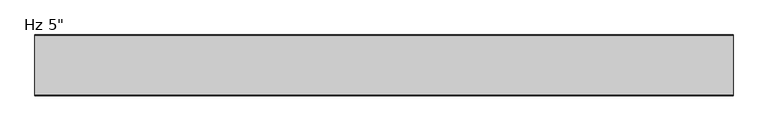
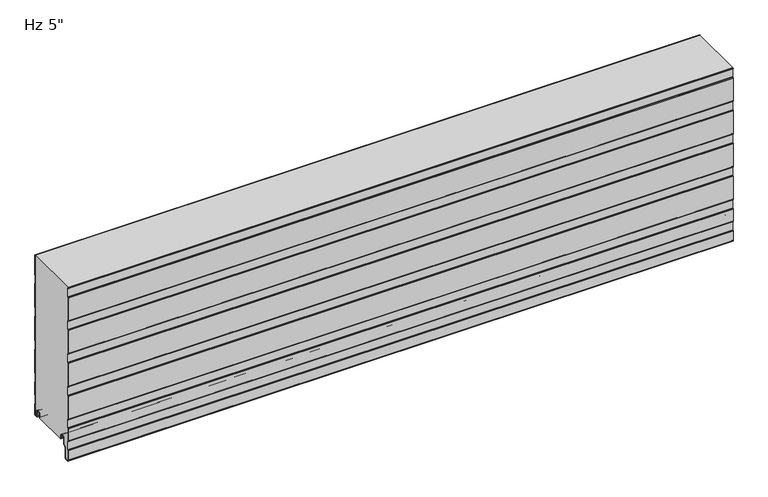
"""IFC4 building model written with IfcOpenShell, lengths in millimetres: plate geometry."""

from ifc_helpers import new_model, si_unit, point, frame, frame_2d, origin, place, context, project, spatial, polyline, circle_curve, trimmed, segment, composite_curve, outline, extrude, source, transform, mapped, element, save
from ifc_brep_helpers import plane_surface, cylinder_surface, revolved_surface, advanced_brep


def plate_ced8370a(model_context):
    return source(origin(), model_context, "Body", "SolidModel", [
        extrude(outline(composite_curve([segment(trimmed(circle_curve(frame_2d((-125.5998717, -10.6415934)), 1.3998661), [point((-126.9997378, -10.6415934))], [point((-126.5324955, -9.5976403))], False, "CARTESIAN"), True, "CONTINUOUS"), segment(polyline([(-126.5324955, -9.5976403), (-125.7997693, -8.8649141), (-125.7997693, 10.0260713), (-126.5327349, 10.7590369)]), True, "CONTINUOUS"), segment(trimmed(circle_curve(frame_2d((-125.6000237, 11.8030877)), 1.3999972), [point((-126.5327349, 10.7590369))], [point((-127.0, 11.810741))], False, "CARTESIAN"), True, "CONTINUOUS"), segment(polyline([(-127.0, 11.810741), (-127.0, 40.1582542)]), True, "CONTINUOUS"), segment(trimmed(circle_curve(frame_2d((-125.6000028, 40.1582542)), 1.3999972), [point((-127.0, 40.1582542))], [point((-126.532714, 41.202305))], False, "CARTESIAN"), True, "CONTINUOUS"), segment(polyline([(-126.532714, 41.202305), (-125.7997693, 41.9352497), (-125.7997693, 60.8259189), (-126.5327349, 61.5588845)]), True, "CONTINUOUS"), segment(trimmed(circle_curve(frame_2d((-125.6000237, 62.6029353)), 1.3999972), [point((-126.5327349, 61.5588845))], [point((-127.0, 62.6105886))], False, "CARTESIAN"), True, "CONTINUOUS"), segment(polyline([(-127.0, 62.6105886), (-127.0, 116.3581018)]), True, "CONTINUOUS"), segment(trimmed(circle_curve(frame_2d((-125.6000028, 116.3581018)), 1.3999972), [point((-127.0, 116.3581018))], [point((-126.532714, 117.4021526))], False, "CARTESIAN"), True, "CONTINUOUS"), segment(polyline([(-126.532714, 117.4021526), (-125.7997693, 118.1350973), (-125.7997693, 137.0257665), (-126.5327349, 137.7587321)]), True, "CONTINUOUS"), segment(trimmed(circle_curve(frame_2d((-125.6000237, 138.8027829)), 1.3999972), [point((-126.5327349, 137.7587321))], [point((-127.0, 138.8104362))], False, "CARTESIAN"), True, "CONTINUOUS"), segment(polyline([(-127.0, 138.8104362), (-127.0, 192.5579494)]), True, "CONTINUOUS"), segment(trimmed(circle_curve(frame_2d((-125.6000028, 192.5579494)), 1.3999972), [point((-127.0, 192.5579494))], [point((-126.532714, 193.6020002))], False, "CARTESIAN"), True, "CONTINUOUS"), segment(polyline([(-126.532714, 193.6020002), (-125.7997693, 194.3349449), (-125.7997693, 213.2256141), (-126.5327349, 213.9585797)]), True, "CONTINUOUS"), segment(trimmed(circle_curve(frame_2d((-125.6000237, 215.0026305)), 1.3999972), [point((-126.5327349, 213.9585797))], [point((-127.0, 215.0102838))], False, "CARTESIAN"), True, "CONTINUOUS"), segment(polyline([(-127.0, 215.0102838), (-127.0, 268.757797)]), True, "CONTINUOUS"), segment(trimmed(circle_curve(frame_2d((-125.6000028, 268.757797)), 1.3999972), [point((-127.0, 268.757797))], [point((-126.532714, 269.8018478))], False, "CARTESIAN"), True, "CONTINUOUS"), segment(polyline([(-126.532714, 269.8018478), (-125.7997693, 270.5347925), (-125.7997693, 289.4254617), (-126.5327349, 290.1584273)]), True, "CONTINUOUS"), segment(trimmed(circle_curve(frame_2d((-125.6000237, 291.2024781)), 1.3999972), [point((-126.5327349, 290.1584273))], [point((-127.0, 291.2101314))], False, "CARTESIAN"), True, "CONTINUOUS"), segment(polyline([(-127.0, 291.2101314), (-127.0, 344.9576446)]), True, "CONTINUOUS"), segment(trimmed(circle_curve(frame_2d((-125.6000028, 344.9576446)), 1.3999972), [point((-127.0, 344.9576446))], [point((-126.532714, 346.0016954))], False, "CARTESIAN"), True, "CONTINUOUS"), segment(polyline([(-126.532714, 346.0016954), (-125.7997693, 346.7346401), (-125.7997693, 365.6253093), (-126.5327349, 366.3582749)]), True, "CONTINUOUS"), segment(trimmed(circle_curve(frame_2d((-125.6000237, 367.4023257)), 1.3999972), [point((-126.5327349, 366.3582749))], [point((-127.0, 367.409979))], False, "CARTESIAN"), True, "CONTINUOUS"), segment(polyline([(-127.0, 367.409979), (-127.0, 368.0), (-126.0, 368.0), (-126.0, 367.240544), (-124.7997693, 366.0403133), (-124.7997693, 346.3209008), (-126.0, 345.1206701), (-126.0, 291.0405383), (-124.7997693, 289.8403076), (-124.7997693, 270.1208951), (-126.0, 268.9206644), (-126.0, 214.8405326), (-124.7997693, 213.6403019), (-124.7997693, 193.9208894), (-126.0, 192.7206587), (-126.0, 138.6405269), (-124.7997693, 137.4402962), (-124.7997693, 117.7208837), (-126.0, 116.520653), (-126.0, 62.4405213), (-124.7997693, 61.2402905), (-124.7997693, 41.520878), (-126.0, 40.3206473), (-126.0, 11.6405156), (-124.7997693, 10.4402849), (-124.7997693, -9.2791277), (-125.9997378, -10.4790962), (-125.9997378, -32.4521176)]), True, "CONTINUOUS"), segment(trimmed(circle_curve(frame_2d((-123.4294985, -32.4521176)), 2.5702393), [point((-125.9997378, -32.4521176))], [point((-123.2054129, -35.0125699))], True, "CARTESIAN"), True, "CONTINUOUS"), segment(polyline([(-123.2054129, -35.0125699), (-118.223592, -34.5765709)]), True, "CONTINUOUS"), segment(trimmed(circle_curve(frame_2d((-118.7049826, -31.9198392)), 2.6999926), [point((-118.223592, -34.5765709))], [point((-116.00499, -31.9198392))], True, "CARTESIAN"), True, "CONTINUOUS"), segment(polyline([(-116.00499, -31.9198392), (-116.00499, -9.8247096), (-110.5029189, -4.3226385)]), True, "CONTINUOUS"), segment(trimmed(circle_curve(frame_2d((-111.7049966, -3.1205608)), 1.6999946), [point((-110.5029189, -4.3226385))], [point((-110.005002, -3.1205608))], True, "CARTESIAN"), True, "CONTINUOUS"), segment(polyline([(-110.005002, -3.1205608), (-110.005002, 8.6903283)]), True, "CONTINUOUS"), segment(trimmed(circle_curve(frame_2d((-106.6550067, 8.6903283)), 3.3499953), [point((-110.005002, 8.6903283))], [point((-106.6550067, 12.0403236))], False, "CARTESIAN"), True, "CONTINUOUS"), segment(polyline([(-106.6550067, 12.0403236), (-102.2550155, 12.0403236)]), True, "CONTINUOUS"), segment(trimmed(circle_curve(frame_2d((-102.2550155, 8.6903283)), 3.3499953), [point((-102.2550155, 12.0403236))], [point((-98.9050202, 8.6903283))], False, "CARTESIAN"), True, "CONTINUOUS"), segment(polyline([(-98.9050202, 8.6903283), (-98.9050202, 5.9912173), (-97.5065413, 5.9912173), (-97.5065413, 2.2328239)]), True, "CONTINUOUS"), segment(trimmed(circle_curve(frame_2d((-98.706538, 2.2313092)), 1.1999976), [point((-97.5065413, 2.2328239))], [point((-98.6760161, 1.0316999))], False, "CARTESIAN"), True, "CONTINUOUS"), segment(trimmed(circle_curve(frame_2d((-98.706538, 2.2313092)), 1.1999976), [point((-98.6760161, 1.0316999))], [point((-99.9050202, 2.1710221))], False, "CARTESIAN"), True, "CONTINUOUS"), segment(polyline([(-99.9050202, 2.1710221), (-99.9050202, 8.6903283)]), True, "CONTINUOUS"), segment(trimmed(circle_curve(frame_2d((-102.2550155, 8.6903283)), 2.3499953), [point((-99.9050202, 8.6903283))], [point((-102.2550155, 11.0403236))], True, "CARTESIAN"), True, "CONTINUOUS"), segment(polyline([(-102.2550155, 11.0403236), (-106.6550067, 11.0403236)]), True, "CONTINUOUS"), segment(trimmed(circle_curve(frame_2d((-106.6550067, 8.6903283)), 2.3499953), [point((-106.6550067, 11.0403236))], [point((-109.005002, 8.6903283))], True, "CARTESIAN"), True, "CONTINUOUS"), segment(polyline([(-109.005002, 8.6903283), (-109.005002, -3.1205608)]), True, "CONTINUOUS"), segment(trimmed(circle_curve(frame_2d((-111.7049966, -3.1205608)), 2.6999946), [point((-109.005002, -3.1205608))], [point((-109.7958121, -5.0297453))], False, "CARTESIAN"), True, "CONTINUOUS"), segment(polyline([(-109.7958121, -5.0297453), (-114.6242296, -9.8581627)]), True, "CONTINUOUS"), segment(trimmed(circle_curve(frame_2d((-113.7049926, -10.7773997)), 1.2999974), [point((-114.6242296, -9.8581627))], [point((-115.00499, -10.7773997))], True, "CARTESIAN"), True, "CONTINUOUS"), segment(polyline([(-115.00499, -10.7773997), (-115.00499, -31.9198392)]), True, "CONTINUOUS"), segment(trimmed(circle_curve(frame_2d((-118.7049826, -31.9198392)), 3.6999926), [point((-115.00499, -31.9198392))], [point((-118.0941815, -35.5690675))], False, "CARTESIAN"), True, "CONTINUOUS"), segment(polyline([(-118.0941815, -35.5690675), (-123.1182281, -36.008762)]), True, "CONTINUOUS"), segment(trimmed(circle_curve(frame_2d((-123.4294985, -32.4521176)), 3.5702393), [point((-123.1182281, -36.008762))], [point((-126.9997378, -32.4521176))], False, "CARTESIAN"), True, "CONTINUOUS"), segment(polyline([(-126.9997378, -32.4521176), (-126.9997378, -10.6415934)]), True, "CONTINUOUS")], self_intersect=False)), frame((-730.0, 0.0, 0.0), z_axis=(1.0, 0.0, 0.0), x_axis=(0.0, 1.0, 0.0)), (0.0, 0.0, 1.0), 1460.0),
        advanced_brep(
        [(-730.0, -17.0015159, 2.0313088), (-730.0, -18.0015191, 1.0313115), (-730.0, -19.0015105, 2.0313088), (-730.0, -19.0015105, 6.0315124), (-730.0, -18.0015159, 6.0315124), (-730.0, -18.0015159, 8.7237222), (-730.0, -14.7015202, 12.0237179), (-730.0, -10.301529, 12.0237179), (-730.0, -7.0015335, 8.7237224), (-730.0, -7.0015335, -1.6962565), (-730.0, -5.2315393, -3.4662507), (-730.0, -0.9999916, -3.4662507), (-730.0, -0.9999916, 21.034026), (-730.0, -2.2002307, 22.4196686), (-730.0, -2.2002307, 41.7948349), (-730.0, -1.0, 43.1804678), (-730.0, -1.0, 71.8338832), (-730.0, -2.2002307, 73.2195162), (-730.0, -2.2002307, 92.5946825), (-730.0, -1.0, 93.9803154), (-730.0, -1.0, 148.0337308), (-730.0, -2.2002307, 149.4193638), (-730.0, -2.2002307, 168.7945301), (-730.0, -1.0, 170.180163), (-730.0, -1.0, 224.2335784), (-730.0, -2.2002307, 225.6192114), (-730.0, -2.2002307, 244.9943777), (-730.0, -1.0, 246.3800106), (-730.0, -1.0, 300.433426), (-730.0, -2.2002307, 301.819059), (-730.0, -2.2002307, 321.1942253), (-730.0, -1.0, 322.5798582), (-730.0, -1.0, 368.0), (-730.0, 0.0, 368.0), (-730.0, 0.0, 322.7290094), (-730.0, -0.3417885, 321.8123925), (-730.0, -1.2002307, 320.8213449), (-730.0, -1.2002307, 302.1919394), (-730.0, -0.3417885, 301.2008918), (-730.0, 0.0, 300.2842749), (-730.0, 0.0, 246.5291618), (-730.0, -0.3417885, 245.6125449), (-730.0, -1.2002307, 244.6214973), (-730.0, -1.2002307, 225.9920918), (-730.0, -0.3417885, 225.0010442), (-730.0, 0.0, 224.0844273), (-730.0, 0.0, 170.3293142), (-730.0, -0.3417885, 169.4126973), (-730.0, -1.2002307, 168.4216497), (-730.0, -1.2002307, 149.7922442), (-730.0, -0.3417885, 148.8011966), (-730.0, 0.0, 147.8845797), (-730.0, 0.0, 94.1294666), (-730.0, -0.3417885, 93.2128497), (-730.0, -1.2002307, 92.2218021), (-730.0, -1.2002307, 73.5923966), (-730.0, -0.3417885, 72.601349), (-730.0, 0.0, 71.6847321), (-730.0, 0.0, 43.329619), (-730.0, -0.3417885, 42.4130021), (-730.0, -1.2002307, 41.4219545), (-730.0, -1.2002307, 22.792549), (-730.0, -0.3417885, 21.8015014), (-730.0, 0.0, 20.8847931), (-730.0, 8.4e-06, -3.0662545), (-730.0, -1.3999878, -4.4662507), (-730.0, -5.2315393, -4.4662507), (-730.0, -8.0015335, -1.6962565), (-730.0, -8.0015335, 8.7237224), (-730.0, -10.301529, 11.0237179), (-730.0, -14.7015202, 11.0237179), (-730.0, -17.0015159, 8.7237222), (730.0, -17.0015159, 2.0313088), (730.0, -17.0015159, 8.7237222), (730.0, -14.7015202, 11.0237179), (730.0, -10.301529, 11.0237179), (730.0, -8.0015335, 8.7237224), (730.0, -8.0015335, -1.6962565), (730.0, -5.2315393, -4.4662507), (730.0, -1.3999878, -4.4662507), (730.0, 8.4e-06, -3.0662545), (730.0, 8.4e-06, 20.8848845), (730.0, -0.3417885, 21.8015014), (730.0, -1.2002307, 22.792549), (730.0, -1.2002307, 41.4219545), (730.0, -0.3417885, 42.4130021), (730.0, 0.0, 43.329619), (730.0, 0.0, 71.6847321), (730.0, -0.3417885, 72.601349), (730.0, -1.2002307, 73.5923966), (730.0, -1.2002307, 92.2218021), (730.0, -0.3417885, 93.2128497), (730.0, 0.0, 94.1294666), (730.0, 0.0, 147.8845797), (730.0, -0.3417885, 148.8011966), (730.0, -1.2002307, 149.7922442), (730.0, -1.2002307, 168.4216497), (730.0, -0.3417885, 169.4126973), (730.0, 0.0, 170.3293142), (730.0, 0.0, 224.0844273), (730.0, -0.3417885, 225.0010442), (730.0, -1.2002307, 225.9920918), (730.0, -1.2002307, 244.6214973), (730.0, -0.3417885, 245.6125449), (730.0, 0.0, 246.5291618), (730.0, 0.0, 300.2842749), (730.0, -0.3417885, 301.2008918), (730.0, -1.2002307, 302.1919394), (730.0, -1.2002307, 320.8213449), (730.0, -0.3417885, 321.8123925), (730.0, 0.0, 322.7290094), (730.0, 0.0, 368.0), (730.0, -1.0, 368.0), (730.0, -1.0, 322.5798582), (730.0, -2.2002307, 321.1942253), (730.0, -2.2002307, 301.819059), (730.0, -1.0, 300.433426), (730.0, -1.0, 246.3800106), (730.0, -2.2002307, 244.9943777), (730.0, -2.2002307, 225.6192114), (730.0, -1.0, 224.2335784), (730.0, -1.0, 170.180163), (730.0, -2.2002307, 168.7945301), (730.0, -2.2002307, 149.4193638), (730.0, -1.0, 148.0337308), (730.0, -1.0, 93.9803154), (730.0, -2.2002307, 92.5946825), (730.0, -2.2002307, 73.2195162), (730.0, -1.0, 71.8338832), (730.0, -1.0, 43.1804678), (730.0, -2.2002307, 41.7948349), (730.0, -2.2002307, 22.4196686), (730.0, -0.9999916, 21.034026), (730.0, -0.9999916, -3.4662507), (730.0, -5.2315393, -3.4662507), (730.0, -7.0015335, -1.6962565), (730.0, -7.0015335, 8.7237224), (730.0, -10.301529, 12.0237179), (730.0, -14.7015202, 12.0237179), (730.0, -18.0015159, 8.7237222), (730.0, -18.0015159, 6.0315124), (730.0, -19.0015105, 6.0315124), (730.0, -19.0015105, 2.0313088), (730.0, -18.0015192, 1.0313116)],
        [
            (0, 1, circle_curve(frame((-730.0, -18.0015132, 2.0313088), z_axis=(-1.0, 0.0, 0.0), x_axis=(0.0, 0.0, 1.0)), 0.9999973)),
            (1, 2, circle_curve(frame((-730.0, -18.0015133, 2.0313088), z_axis=(-1.0, 0.0, 0.0), x_axis=(0.0, 0.0, 1.0)), 0.9999972)),
            (2, 3),
            (3, 4),
            (4, 5),
            (5, 6, circle_curve(frame((-730.0, -14.7015202, 8.7237222), z_axis=(-1.0, 0.0, 0.0), x_axis=(0.0, 0.0, 1.0)), 3.2999957)),
            (6, 7),
            (7, 8, circle_curve(frame((-730.0, -10.301529, 8.7237224), z_axis=(-1.0, 0.0, 0.0), x_axis=(0.0, 0.0, 1.0)), 3.2999955)),
            (8, 9),
            (9, 10, circle_curve(frame((-730.0, -5.2315393, -1.6962565), z_axis=(1.0, 0.0, 0.0), x_axis=(0.0, 0.0, 1.0)), 1.7699942)),
            (10, 11),
            (11, 12),
            (12, 13),
            (13, 14),
            (14, 15),
            (15, 16),
            (16, 17),
            (17, 18),
            (18, 19),
            (19, 20),
            (20, 21),
            (21, 22),
            (22, 23),
            (23, 24),
            (24, 25),
            (25, 26),
            (26, 27),
            (27, 28),
            (28, 29),
            (29, 30),
            (30, 31),
            (31, 32),
            (32, 33),
            (33, 34),
            (34, 35, circle_curve(frame((-730.0, -1.3999972, 322.7290094), z_axis=(-1.0, 0.0, 0.0), x_axis=(0.0, 0.0, 1.0)), 1.3999972)),
            (35, 36),
            (36, 37),
            (37, 38),
            (38, 39, circle_curve(frame((-730.0, -1.3999972, 300.2842749), z_axis=(-1.0, 0.0, 0.0), x_axis=(0.0, 0.0, 1.0)), 1.3999972)),
            (39, 40),
            (40, 41, circle_curve(frame((-730.0, -1.3999972, 246.5291618), z_axis=(-1.0, 0.0, 0.0), x_axis=(0.0, 0.0, 1.0)), 1.3999972)),
            (41, 42),
            (42, 43),
            (43, 44),
            (44, 45, circle_curve(frame((-730.0, -1.3999972, 224.0844273), z_axis=(-1.0, 0.0, 0.0), x_axis=(0.0, 0.0, 1.0)), 1.3999972)),
            (45, 46),
            (46, 47, circle_curve(frame((-730.0, -1.3999972, 170.3293142), z_axis=(-1.0, 0.0, 0.0), x_axis=(0.0, 0.0, 1.0)), 1.3999972)),
            (47, 48),
            (48, 49),
            (49, 50),
            (50, 51, circle_curve(frame((-730.0, -1.3999972, 147.8845797), z_axis=(-1.0, 0.0, 0.0), x_axis=(0.0, 0.0, 1.0)), 1.3999972)),
            (51, 52),
            (52, 53, circle_curve(frame((-730.0, -1.3999972, 94.1294666), z_axis=(-1.0, 0.0, 0.0), x_axis=(0.0, 0.0, 1.0)), 1.3999972)),
            (53, 54),
            (54, 55),
            (55, 56),
            (56, 57, circle_curve(frame((-730.0, -1.3999972, 71.6847321), z_axis=(-1.0, 0.0, 0.0), x_axis=(0.0, 0.0, 1.0)), 1.3999972)),
            (57, 58),
            (58, 59, circle_curve(frame((-730.0, -1.3999972, 43.329619), z_axis=(-1.0, 0.0, 0.0), x_axis=(0.0, 0.0, 1.0)), 1.3999972)),
            (59, 60),
            (60, 61),
            (61, 62),
            (62, 63, circle_curve(frame((-730.0, -1.3999972, 20.8848845), z_axis=(-1.0, 0.0, 0.0), x_axis=(0.0, 0.0, 1.0)), 1.3999972)),
            (63, 64),
            (64, 65, circle_curve(frame((-730.0, -1.3999878, -3.0662545), z_axis=(-1.0, 0.0, 0.0), x_axis=(0.0, 0.0, 1.0)), 1.3999962)),
            (65, 66),
            (66, 67, circle_curve(frame((-730.0, -5.2315393, -1.6962565), z_axis=(-1.0, 0.0, 0.0), x_axis=(0.0, 0.0, 1.0)), 2.7699942)),
            (67, 68),
            (68, 69, circle_curve(frame((-730.0, -10.301529, 8.7237224), z_axis=(1.0, 0.0, 0.0), x_axis=(0.0, 0.0, 1.0)), 2.2999955)),
            (69, 70),
            (70, 71, circle_curve(frame((-730.0, -14.7015202, 8.7237222), z_axis=(1.0, 0.0, 0.0), x_axis=(0.0, 0.0, 1.0)), 2.2999957)),
            (71, 0),
            (72, 73),
            (73, 74, circle_curve(frame((730.0, -14.7015202, 8.7237222), z_axis=(-1.0, 0.0, 0.0), x_axis=(0.0, 0.0, 1.0)), 2.2999957)),
            (74, 75),
            (75, 76, circle_curve(frame((730.0, -10.301529, 8.7237224), z_axis=(-1.0, 0.0, 0.0), x_axis=(0.0, 0.0, 1.0)), 2.2999955)),
            (76, 77),
            (77, 78, circle_curve(frame((730.0, -5.2315393, -1.6962565), z_axis=(1.0, 0.0, 0.0), x_axis=(0.0, 0.0, 1.0)), 2.7699942)),
            (78, 79),
            (79, 80, circle_curve(frame((730.0, -1.3999878, -3.0662545), z_axis=(1.0, 0.0, 0.0), x_axis=(0.0, 0.0, 1.0)), 1.3999962)),
            (80, 81),
            (81, 82, circle_curve(frame((730.0, -1.3999972, 20.8848845), z_axis=(1.0, 0.0, 0.0), x_axis=(0.0, 0.0, 1.0)), 1.3999972)),
            (82, 83),
            (83, 84),
            (84, 85),
            (85, 86, circle_curve(frame((730.0, -1.3999972, 43.329619), z_axis=(1.0, 0.0, 0.0), x_axis=(0.0, 0.0, 1.0)), 1.3999972)),
            (86, 87),
            (87, 88, circle_curve(frame((730.0, -1.3999972, 71.6847321), z_axis=(1.0, 0.0, 0.0), x_axis=(0.0, 0.0, 1.0)), 1.3999972)),
            (88, 89),
            (89, 90),
            (90, 91),
            (91, 92, circle_curve(frame((730.0, -1.3999972, 94.1294666), z_axis=(1.0, 0.0, 0.0), x_axis=(0.0, 0.0, 1.0)), 1.3999972)),
            (92, 93),
            (93, 94, circle_curve(frame((730.0, -1.3999972, 147.8845797), z_axis=(1.0, 0.0, 0.0), x_axis=(0.0, 0.0, 1.0)), 1.3999972)),
            (94, 95),
            (95, 96),
            (96, 97),
            (97, 98, circle_curve(frame((730.0, -1.3999972, 170.3293142), z_axis=(1.0, 0.0, 0.0), x_axis=(0.0, 0.0, 1.0)), 1.3999972)),
            (98, 99),
            (99, 100, circle_curve(frame((730.0, -1.3999972, 224.0844273), z_axis=(1.0, 0.0, 0.0), x_axis=(0.0, 0.0, 1.0)), 1.3999972)),
            (100, 101),
            (101, 102),
            (102, 103),
            (103, 104, circle_curve(frame((730.0, -1.3999972, 246.5291618), z_axis=(1.0, 0.0, 0.0), x_axis=(0.0, 0.0, 1.0)), 1.3999972)),
            (104, 105),
            (105, 106, circle_curve(frame((730.0, -1.3999972, 300.2842749), z_axis=(1.0, 0.0, 0.0), x_axis=(0.0, 0.0, 1.0)), 1.3999972)),
            (106, 107),
            (107, 108),
            (108, 109),
            (109, 110, circle_curve(frame((730.0, -1.3999972, 322.7290094), z_axis=(1.0, 0.0, 0.0), x_axis=(0.0, 0.0, 1.0)), 1.3999972)),
            (110, 111),
            (111, 112),
            (112, 113),
            (113, 114),
            (114, 115),
            (115, 116),
            (116, 117),
            (117, 118),
            (118, 119),
            (119, 120),
            (120, 121),
            (121, 122),
            (122, 123),
            (123, 124),
            (124, 125),
            (125, 126),
            (126, 127),
            (127, 128),
            (128, 129),
            (129, 130),
            (130, 131),
            (131, 132),
            (132, 133),
            (133, 134),
            (134, 135, circle_curve(frame((730.0, -5.2315393, -1.6962565), z_axis=(-1.0, 0.0, 0.0), x_axis=(0.0, 0.0, 1.0)), 1.7699942)),
            (135, 136),
            (136, 137, circle_curve(frame((730.0, -10.301529, 8.7237224), z_axis=(1.0, 0.0, 0.0), x_axis=(0.0, 0.0, 1.0)), 3.2999955)),
            (137, 138),
            (138, 139, circle_curve(frame((730.0, -14.7015202, 8.7237222), z_axis=(1.0, 0.0, 0.0), x_axis=(0.0, 0.0, 1.0)), 3.2999957)),
            (139, 140),
            (140, 141),
            (141, 142),
            (142, 143, circle_curve(frame((730.0, -18.0015133, 2.0313088), z_axis=(1.0, 0.0, 0.0), x_axis=(0.0, 0.0, 1.0)), 0.9999972)),
            (143, 72, circle_curve(frame((730.0, -18.0015132, 2.0313088), z_axis=(1.0, 0.0, 0.0), x_axis=(0.0, 0.0, 1.0)), 0.9999973)),
            (32, 112),
            (111, 33),
            (67, 77),
            (76, 68),
            (0, 72),
            (143, 1),
            (71, 73),
            (70, 74),
            (75, 69),
            (65, 79),
            (78, 66),
            (64, 80),
            (63, 81),
            (2, 142),
            (141, 3),
            (56, 88),
            (87, 57),
            (61, 83),
            (82, 62),
            (60, 84),
            (58, 86),
            (85, 59),
            (50, 94),
            (93, 51),
            (54, 90),
            (89, 55),
            (52, 92),
            (91, 53),
            (44, 100),
            (99, 45),
            (48, 96),
            (95, 49),
            (46, 98),
            (97, 47),
            (38, 106),
            (105, 39),
            (42, 102),
            (101, 43),
            (40, 104),
            (103, 41),
            (36, 108),
            (107, 37),
            (34, 110),
            (109, 35),
            (27, 117),
            (116, 28),
            (115, 29),
            (114, 30),
            (113, 31),
            (26, 118),
            (25, 119),
            (24, 120),
            (23, 121),
            (22, 122),
            (21, 123),
            (20, 124),
            (19, 125),
            (18, 126),
            (17, 127),
            (16, 128),
            (15, 129),
            (14, 130),
            (140, 4),
            (139, 5),
            (138, 6),
            (137, 7),
            (136, 8),
            (135, 9),
            (12, 132),
            (131, 13),
            (11, 133),
            (10, 134),
        ],
        [
            plane_surface(frame((-730.0, 0.0, 508.0), z_axis=(-1.0, 0.0, 0.0), x_axis=(0.0, 1.0, 0.0))),
            plane_surface(frame((730.0, 0.0, 508.0), z_axis=(1.0, 0.0, 0.0), x_axis=(0.0, 1.0, 0.0))),
            plane_surface(frame((730.0, 10.0, 368.0), z_axis=(0.0, 0.0, 1.0), x_axis=(-1.0, 0.0, 0.0))),
            plane_surface(frame((-730.0, -8.0015335, 8.7237224), z_axis=(0.0, -1.0, 0.0), x_axis=(1.0, 0.0, 0.0))),
            cylinder_surface(frame((-730.0, -18.0015132, 2.0313088), z_axis=(-1.0, 0.0, 0.0), x_axis=(0.0, 0.0, 1.0)), 0.9999973),
            plane_surface(frame((-730.0, -17.0015159, 2.0313088), z_axis=(0.0, 1.0, 0.0), x_axis=(1.0, 0.0, 0.0))),
            revolved_surface(polyline([(730.0, -14.7015202, 11.0237179), (-730.0, -14.7015202, 11.0237179)]), (-730.0, -14.7015202, 8.7237222), (1.0, 0.0, 0.0)),
            revolved_surface(polyline([(730.0, -10.301529, 11.0237179), (-730.0, -10.301529, 11.0237179)]), (-730.0, -10.301529, 8.7237224), (1.0, 0.0, 0.0)),
            plane_surface(frame((-730.0, -14.7015202, 11.0237179), z_axis=(0.0, 0.0, -1.0), x_axis=(1.0, 0.0, 0.0))),
            plane_surface(frame((-730.0, -5.2315393, -4.4662507), z_axis=(0.0, 0.0, -1.0), x_axis=(1.0, 0.0, 0.0))),
            cylinder_surface(frame((-730.0, -1.3999878, -3.0662545), z_axis=(-1.0, 0.0, 0.0), x_axis=(0.0, 0.0, 1.0)), 1.3999962),
            cylinder_surface(frame((-730.0, -5.2315393, -1.6962565), z_axis=(-1.0, 0.0, 0.0), x_axis=(0.0, 0.0, 1.0)), 2.7699942),
            plane_surface(frame((-730.0, 8.4e-06, -3.0662545), z_axis=(0.0, 1.0, 0.0), x_axis=(1.0, 0.0, 0.0))),
            plane_surface(frame((-730.0, -19.0015105, 6.0315124), z_axis=(0.0, -1.0, 0.0), x_axis=(1.0, 0.0, 0.0))),
            cylinder_surface(frame((-730.0, -18.0015133, 2.0313088), z_axis=(-1.0, 0.0, 0.0), x_axis=(0.0, 0.0, 1.0)), 0.9999972),
            cylinder_surface(frame((-730.0, -1.3999972, 71.6847321), z_axis=(-1.0, 0.0, 0.0), x_axis=(0.0, 0.0, 1.0)), 1.3999972),
            plane_surface(frame((-730.0, -0.3417885, 21.8015014), z_axis=(0.0, 0.755864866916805, 0.6547276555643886), x_axis=(1.0, 0.0, 0.0))),
            plane_surface(frame((-730.0, -1.2002307, 32.1072517), z_axis=(0.0, 1.0, 0.0), x_axis=(1.0, 0.0, 0.0))),
            cylinder_surface(frame((-730.0, -1.3999972, 20.8848845), z_axis=(-1.0, 0.0, 0.0), x_axis=(0.0, 0.0, 1.0)), 1.3999972),
            cylinder_surface(frame((-730.0, -1.3999972, 43.329619), z_axis=(-1.0, 0.0, 0.0), x_axis=(0.0, 0.0, 1.0)), 1.3999972),
            plane_surface(frame((-730.0, -1.2002307, 41.4219545), z_axis=(0.0, 0.755864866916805, -0.6547276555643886), x_axis=(1.0, 0.0, 0.0))),
            cylinder_surface(frame((-730.0, -1.3999972, 147.8845797), z_axis=(-1.0, 0.0, 0.0), x_axis=(0.0, 0.0, 1.0)), 1.3999972),
            plane_surface(frame((-730.0, -1.2002307, 82.9070993), z_axis=(0.0, 1.0, 0.0), x_axis=(1.0, 0.0, 0.0))),
            cylinder_surface(frame((-730.0, -1.3999972, 94.1294666), z_axis=(-1.0, 0.0, 0.0), x_axis=(0.0, 0.0, 1.0)), 1.3999972),
            plane_surface(frame((-730.0, -0.3417885, 72.601349), z_axis=(0.0, 0.755864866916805, 0.6547276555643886), x_axis=(1.0, 0.0, 0.0))),
            plane_surface(frame((-730.0, -1.2002307, 92.2218021), z_axis=(0.0, 0.755864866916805, -0.6547276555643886), x_axis=(1.0, 0.0, 0.0))),
            plane_surface(frame((-730.0, 0.0, 43.329619), z_axis=(0.0, 1.0, 0.0), x_axis=(1.0, 0.0, 0.0))),
            cylinder_surface(frame((-730.0, -1.3999972, 224.0844273), z_axis=(-1.0, 0.0, 0.0), x_axis=(0.0, 0.0, 1.0)), 1.3999972),
            plane_surface(frame((-730.0, -1.2002307, 159.1069469), z_axis=(0.0, 1.0, 0.0), x_axis=(1.0, 0.0, 0.0))),
            cylinder_surface(frame((-730.0, -1.3999972, 170.3293142), z_axis=(-1.0, 0.0, 0.0), x_axis=(0.0, 0.0, 1.0)), 1.3999972),
            plane_surface(frame((-730.0, -0.3417885, 148.8011966), z_axis=(0.0, 0.755864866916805, 0.6547276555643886), x_axis=(1.0, 0.0, 0.0))),
            plane_surface(frame((-730.0, -1.2002307, 168.4216497), z_axis=(0.0, 0.755864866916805, -0.6547276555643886), x_axis=(1.0, 0.0, 0.0))),
            plane_surface(frame((-730.0, 0.0, 94.1294666), z_axis=(0.0, 1.0, 0.0), x_axis=(1.0, 0.0, 0.0))),
            cylinder_surface(frame((-730.0, -1.3999972, 300.2842749), z_axis=(-1.0, 0.0, 0.0), x_axis=(0.0, 0.0, 1.0)), 1.3999972),
            plane_surface(frame((-730.0, -1.2002307, 235.3067945), z_axis=(0.0, 1.0, 0.0), x_axis=(1.0, 0.0, 0.0))),
            cylinder_surface(frame((-730.0, -1.3999972, 246.5291618), z_axis=(-1.0, 0.0, 0.0), x_axis=(0.0, 0.0, 1.0)), 1.3999972),
            plane_surface(frame((-730.0, -0.3417885, 225.0010442), z_axis=(0.0, 0.755864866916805, 0.6547276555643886), x_axis=(1.0, 0.0, 0.0))),
            plane_surface(frame((-730.0, -1.2002307, 244.6214973), z_axis=(0.0, 0.755864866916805, -0.6547276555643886), x_axis=(1.0, 0.0, 0.0))),
            plane_surface(frame((-730.0, 0.0, 170.3293142), z_axis=(0.0, 1.0, 0.0), x_axis=(1.0, 0.0, 0.0))),
            plane_surface(frame((-730.0, -1.2002307, 311.5066421), z_axis=(0.0, 1.0, 0.0), x_axis=(1.0, 0.0, 0.0))),
            cylinder_surface(frame((-730.0, -1.3999972, 322.7290094), z_axis=(-1.0, 0.0, 0.0), x_axis=(0.0, 0.0, 1.0)), 1.3999972),
            plane_surface(frame((-730.0, -0.3417885, 301.2008918), z_axis=(0.0, 0.755864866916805, 0.6547276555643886), x_axis=(1.0, 0.0, 0.0))),
            plane_surface(frame((-730.0, -1.2002307, 320.8213449), z_axis=(0.0, 0.755864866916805, -0.6547276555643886), x_axis=(1.0, 0.0, 0.0))),
            plane_surface(frame((-730.0, 0.0, 246.5291618), z_axis=(0.0, 1.0, 0.0), x_axis=(1.0, 0.0, 0.0))),
            plane_surface(frame((-730.0, 0.0, 322.7290094), z_axis=(0.0, 1.0, 0.0), x_axis=(1.0, 0.0, 0.0))),
            plane_surface(frame((-730.0, -1.0, 300.433426), z_axis=(0.0, -1.0, 0.0), x_axis=(1.0, 0.0, 0.0))),
            plane_surface(frame((-730.0, -2.2002307, 301.819059), z_axis=(0.0, -0.755864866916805, -0.6547276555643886), x_axis=(1.0, 0.0, 0.0))),
            plane_surface(frame((-730.0, -2.2002307, 321.1942253), z_axis=(0.0, -1.0, 0.0), x_axis=(1.0, 0.0, 0.0))),
            plane_surface(frame((-730.0, -1.0, 322.5798582), z_axis=(0.0, -0.755864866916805, 0.6547276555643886), x_axis=(1.0, 0.0, 0.0))),
            plane_surface(frame((-730.0, -1.0, 376.6332736), z_axis=(0.0, -1.0, 0.0), x_axis=(1.0, 0.0, 0.0))),
            plane_surface(frame((-730.0, -1.0, 246.3800106), z_axis=(0.0, -0.755864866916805, 0.6547276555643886), x_axis=(1.0, 0.0, 0.0))),
            plane_surface(frame((-730.0, -2.2002307, 244.9943777), z_axis=(0.0, -1.0, 0.0), x_axis=(1.0, 0.0, 0.0))),
            plane_surface(frame((-730.0, -2.2002307, 225.6192114), z_axis=(0.0, -0.755864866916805, -0.6547276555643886), x_axis=(1.0, 0.0, 0.0))),
            plane_surface(frame((-730.0, -1.0, 224.2335784), z_axis=(0.0, -1.0, 0.0), x_axis=(1.0, 0.0, 0.0))),
            plane_surface(frame((-730.0, -1.0, 170.180163), z_axis=(0.0, -0.755864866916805, 0.6547276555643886), x_axis=(1.0, 0.0, 0.0))),
            plane_surface(frame((-730.0, -2.2002307, 168.7945301), z_axis=(0.0, -1.0, 0.0), x_axis=(1.0, 0.0, 0.0))),
            plane_surface(frame((-730.0, -2.2002307, 149.4193638), z_axis=(0.0, -0.755864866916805, -0.6547276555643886), x_axis=(1.0, 0.0, 0.0))),
            plane_surface(frame((-730.0, -1.0, 148.0337308), z_axis=(0.0, -1.0, 0.0), x_axis=(1.0, 0.0, 0.0))),
            plane_surface(frame((-730.0, -1.0, 93.9803154), z_axis=(0.0, -0.755864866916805, 0.6547276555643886), x_axis=(1.0, 0.0, 0.0))),
            plane_surface(frame((-730.0, -2.2002307, 92.5946825), z_axis=(0.0, -1.0, 0.0), x_axis=(1.0, 0.0, 0.0))),
            plane_surface(frame((-730.0, -2.2002307, 73.2195162), z_axis=(0.0, -0.755864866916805, -0.6547276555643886), x_axis=(1.0, 0.0, 0.0))),
            plane_surface(frame((-730.0, -1.0, 71.8338832), z_axis=(0.0, -1.0, 0.0), x_axis=(1.0, 0.0, 0.0))),
            plane_surface(frame((-730.0, -1.0, 43.1804678), z_axis=(0.0, -0.755864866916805, 0.6547276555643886), x_axis=(1.0, 0.0, 0.0))),
            plane_surface(frame((-730.0, -18.0015159, 6.0315124), z_axis=(0.0, 0.0, 1.0), x_axis=(1.0, 0.0, 0.0))),
            plane_surface(frame((-730.0, -18.0015159, 8.7237222), z_axis=(0.0, -1.0, 0.0), x_axis=(1.0, 0.0, 0.0))),
            cylinder_surface(frame((-730.0, -14.7015202, 8.7237222), z_axis=(-1.0, 0.0, 0.0), x_axis=(0.0, 0.0, 1.0)), 3.2999957),
            plane_surface(frame((-730.0, -10.301529, 12.0237179), z_axis=(0.0, 0.0, 1.0), x_axis=(1.0, 0.0, 0.0))),
            cylinder_surface(frame((-730.0, -10.301529, 8.7237224), z_axis=(-1.0, 0.0, 0.0), x_axis=(0.0, 0.0, 1.0)), 3.2999955),
            plane_surface(frame((-730.0, -7.0015335, -1.6962565), z_axis=(0.0, 1.0, 0.0), x_axis=(1.0, 0.0, 0.0))),
            plane_surface(frame((-730.0, -2.2002307, 22.4196686), z_axis=(0.0, -0.755864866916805, -0.6547276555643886), x_axis=(1.0, 0.0, 0.0))),
            plane_surface(frame((-730.0, -2.2002307, 41.7948349), z_axis=(0.0, -1.0, 0.0), x_axis=(1.0, 0.0, 0.0))),
            plane_surface(frame((-730.0, -0.9999916, 21.034026), z_axis=(0.0, -1.0, 0.0), x_axis=(1.0, 0.0, 0.0))),
            plane_surface(frame((-730.0, -0.9999916, -3.4662507), z_axis=(0.0, 0.0, 1.0), x_axis=(1.0, 0.0, 0.0))),
            revolved_surface(polyline([(730.0, -5.2315393, 0.0737376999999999), (-730.0, -5.2315393, 0.0737376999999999)]), (-730.0, -5.2315393, -1.6962565), (1.0, 0.0, 0.0)),
        ],
        [
            (0, [[1, 2, 3, 4, 5, 6, 7, 8, 9, 10, 11, 12, 13, 14, 15, 16, 17, 18, 19, 20, 21, 22, 23, 24, 25, 26, 27, 28, 29, 30, 31, 32, 33, 34, 35, 36, 37, 38, 39, 40, 41, 42, 43, 44, 45, 46, 47, 48, 49, 50, 51, 52, 53, 54, 55, 56, 57, 58, 59, 60, 61, 62, 63, 64, 65, 66, 67, 68, 69, 70, 71, 72]]),
            (1, [[73, 74, 75, 76, 77, 78, 79, 80, 81, 82, 83, 84, 85, 86, 87, 88, 89, 90, 91, 92, 93, 94, 95, 96, 97, 98, 99, 100, 101, 102, 103, 104, 105, 106, 107, 108, 109, 110, 111, 112, 113, 114, 115, 116, 117, 118, 119, 120, 121, 122, 123, 124, 125, 126, 127, 128, 129, 130, 131, 132, 133, 134, 135, 136, 137, 138, 139, 140, 141, 142, 143, 144]]),
            (2, [[145, -112, 146, -33]]),
            (3, [[147, -77, 148, -68]]),
            (4, [[149, -144, 150, -1]]),
            (5, [[151, -73, -149, -72]]),
            (6, [[152, -74, -151, -71]]),
            (7, [[-148, -76, 153, -69]]),
            (8, [[-153, -75, -152, -70]]),
            (9, [[154, -79, 155, -66]]),
            (10, [[156, -80, -154, -65]]),
            (11, [[-155, -78, -147, -67]]),
            (12, [[157, -81, -156, -64]]),
            (13, [[158, -142, 159, -3]]),
            (14, [[-150, -143, -158, -2]]),
            (15, [[160, -88, 161, -57]]),
            (16, [[162, -83, 163, -62]]),
            (17, [[164, -84, -162, -61]]),
            (18, [[-163, -82, -157, -63]]),
            (19, [[165, -86, 166, -59]]),
            (20, [[-166, -85, -164, -60]]),
            (21, [[167, -94, 168, -51]]),
            (22, [[169, -90, 170, -55]]),
            (23, [[171, -92, 172, -53]]),
            (24, [[-170, -89, -160, -56]]),
            (25, [[-172, -91, -169, -54]]),
            (26, [[-161, -87, -165, -58]]),
            (27, [[173, -100, 174, -45]]),
            (28, [[175, -96, 176, -49]]),
            (29, [[177, -98, 178, -47]]),
            (30, [[-176, -95, -167, -50]]),
            (31, [[-178, -97, -175, -48]]),
            (32, [[-168, -93, -171, -52]]),
            (33, [[179, -106, 180, -39]]),
            (34, [[181, -102, 182, -43]]),
            (35, [[183, -104, 184, -41]]),
            (36, [[-182, -101, -173, -44]]),
            (37, [[-184, -103, -181, -42]]),
            (38, [[-174, -99, -177, -46]]),
            (39, [[185, -108, 186, -37]]),
            (40, [[187, -110, 188, -35]]),
            (41, [[-186, -107, -179, -38]]),
            (42, [[-188, -109, -185, -36]]),
            (43, [[-180, -105, -183, -40]]),
            (44, [[-34, -146, -111, -187]]),
            (45, [[189, -117, 190, -28]]),
            (46, [[-190, -116, 191, -29]]),
            (47, [[-191, -115, 192, -30]]),
            (48, [[-192, -114, 193, -31]]),
            (49, [[-113, -145, -32, -193]]),
            (50, [[194, -118, -189, -27]]),
            (51, [[195, -119, -194, -26]]),
            (52, [[196, -120, -195, -25]]),
            (53, [[197, -121, -196, -24]]),
            (54, [[198, -122, -197, -23]]),
            (55, [[199, -123, -198, -22]]),
            (56, [[200, -124, -199, -21]]),
            (57, [[201, -125, -200, -20]]),
            (58, [[202, -126, -201, -19]]),
            (59, [[203, -127, -202, -18]]),
            (60, [[204, -128, -203, -17]]),
            (61, [[205, -129, -204, -16]]),
            (62, [[206, -130, -205, -15]]),
            (63, [[-159, -141, 207, -4]]),
            (64, [[-207, -140, 208, -5]]),
            (65, [[-208, -139, 209, -6]]),
            (66, [[-209, -138, 210, -7]]),
            (67, [[-210, -137, 211, -8]]),
            (68, [[-211, -136, 212, -9]]),
            (69, [[213, -132, 214, -13]]),
            (70, [[-214, -131, -206, -14]]),
            (71, [[215, -133, -213, -12]]),
            (72, [[216, -134, -215, -11]]),
            (73, [[-212, -135, -216, -10]]),
        ],
    ),
        extrude(outline(composite_curve([segment(trimmed(circle_curve(frame_2d((-98.706538, 2.2313092)), 1.1999976), [point((-98.6760161, 1.0316999))], [point((-97.5065413, 2.2328239))], True, "CARTESIAN"), True, "CONTINUOUS"), segment(polyline([(-97.5065413, 2.2328239), (-97.5065413, 5.9912173), (-98.9050202, 5.9912173), (-98.9050202, 8.6903283)]), True, "CONTINUOUS"), segment(trimmed(circle_curve(frame_2d((-102.2550155, 8.6903283)), 3.3499953), [point((-98.9050202, 8.6903283))], [point((-102.2550155, 12.0403236))], True, "CARTESIAN"), True, "CONTINUOUS"), segment(polyline([(-102.2550155, 12.0403236), (-106.6550067, 12.0403236)]), True, "CONTINUOUS"), segment(trimmed(circle_curve(frame_2d((-106.6550067, 8.6903283)), 3.3499953), [point((-106.6550067, 12.0403236))], [point((-110.005002, 8.6903283))], True, "CARTESIAN"), True, "CONTINUOUS"), segment(polyline([(-110.005002, 8.6903283), (-110.005002, -3.1205608)]), True, "CONTINUOUS"), segment(trimmed(circle_curve(frame_2d((-111.7049966, -3.1205608)), 1.6999946), [point((-110.005002, -3.1205608))], [point((-110.5029189, -4.3226385))], False, "CARTESIAN"), True, "CONTINUOUS"), segment(polyline([(-110.5029189, -4.3226385), (-116.00499, -9.8247096), (-116.00499, -31.9198392)]), True, "CONTINUOUS"), segment(trimmed(circle_curve(frame_2d((-118.7049826, -31.9198392)), 2.6999926), [point((-116.00499, -31.9198392))], [point((-118.223592, -34.5765709))], False, "CARTESIAN"), True, "CONTINUOUS"), segment(polyline([(-118.223592, -34.5765709), (-123.2054129, -35.0125699)]), True, "CONTINUOUS"), segment(trimmed(circle_curve(frame_2d((-123.4294985, -32.4521176)), 2.5702393), [point((-123.2054129, -35.0125699))], [point((-125.9997378, -32.4521176))], False, "CARTESIAN"), True, "CONTINUOUS"), segment(polyline([(-125.9997378, -32.4521176), (-125.9997378, -10.4790962), (-124.7997693, -9.2791277), (-124.7997693, 10.4402849), (-126.0, 11.6405156), (-126.0, 40.3206473), (-124.7997693, 41.520878), (-124.7997693, 61.2402905), (-126.0, 62.4405213), (-126.0, 116.520653), (-124.7997693, 117.7208837), (-124.7997693, 137.4402962), (-126.0, 138.6405269), (-126.0, 192.7206587), (-124.7997693, 193.9208894), (-124.7997693, 213.6403019), (-126.0, 214.8405326), (-126.0, 268.9206644), (-124.7997693, 270.1208951), (-124.7997693, 289.8403076), (-126.0, 291.0405383), (-126.0, 345.1206701), (-124.7997693, 346.3209008), (-124.7997693, 366.0403133), (-126.0, 367.240544), (-126.0, 368.0), (-1.0, 368.0), (-1.0, 322.5798583), (-2.2002307, 321.1942253), (-2.2002307, 301.819059), (-1.0, 300.4334261), (-1.0, 246.3800107), (-2.2002307, 244.9943777), (-2.2002307, 225.6192114), (-1.0, 224.2335785), (-1.0, 170.1801631), (-2.2002307, 168.7945301), (-2.2002307, 149.4193638), (-1.0, 148.0337309), (-1.0, 93.9803155), (-2.2002307, 92.5946825), (-2.2002307, 73.2195162), (-1.0, 71.8338833), (-1.0, 43.1804679), (-2.2002307, 41.7948349), (-2.2002307, 22.4196686), (-0.9999916, 21.034026), (-0.9999916, -3.4662506), (-5.2315389, -3.4662506)]), True, "CONTINUOUS"), segment(trimmed(circle_curve(frame_2d((-5.2315389, -1.6962564)), 1.7699942), [point((-5.2315389, -3.4662506))], [point((-7.0015331, -1.6962564))], False, "CARTESIAN"), True, "CONTINUOUS"), segment(polyline([(-7.0015331, -1.6962564), (-7.0015331, 8.7237221)]), True, "CONTINUOUS"), segment(trimmed(circle_curve(frame_2d((-10.301529, 8.7237221)), 3.2999959), [point((-7.0015331, 8.7237221))], [point((-10.301529, 12.023718))], True, "CARTESIAN"), True, "CONTINUOUS"), segment(polyline([(-10.301529, 12.023718), (-14.7015202, 12.023718)]), True, "CONTINUOUS"), segment(trimmed(circle_curve(frame_2d((-14.7015202, 8.7237223)), 3.2999957), [point((-14.7015202, 12.023718))], [point((-18.0015159, 8.7237223))], True, "CARTESIAN"), True, "CONTINUOUS"), segment(polyline([(-18.0015159, 8.7237223), (-18.0015159, 6.0315125), (-19.0015105, 6.0315125), (-19.0015105, 2.0313088)]), True, "CONTINUOUS"), segment(trimmed(circle_curve(frame_2d((-18.0015133, 2.0313088)), 0.9999972), [point((-19.0015105, 2.0313088))], [point((-18.0015192, 1.0313116))], True, "CARTESIAN"), True, "CONTINUOUS"), segment(polyline([(-18.0015192, 1.0313116), (-19.0328308, 0.0), (-97.6443162, 0.0), (-98.6760161, 1.0316999)]), True, "CONTINUOUS")], self_intersect=False)), frame((-730.0, 0.0, 0.0), z_axis=(1.0, 0.0, 0.0), x_axis=(0.0, 1.0, 0.0)), (0.0, 0.0, 1.0), 1460.0),
    ])


if __name__ == "__main__":
    model = new_model("IFC4")
    model_context = context("Model", 3, world=origin())
    ifc_project = project(units=[si_unit("LENGTHUNIT", "METRE", prefix="MILLI")], contexts=[model_context])
    site = spatial("IfcSite", under=ifc_project)
    building = spatial("IfcBuilding", under=site)
    placement = place(None, origin())
    plate_shape = plate_ced8370a(model_context)
    element("IfcPlate", 1, ObjectType="KIP-40-Karrier-KP-R19-CP-Hz-SL3-8in_SL : Hz 5\"", at=placement, inside=building, context=model_context, shape_type="MappedRepresentation", body=[
        mapped(plate_shape, transform((0.0, 0.0, 0.0), x_axis=(1.0, 0.0, 0.0), y_axis=(0.0, 1.0, 0.0), z_axis=(0.0, 0.0, 1.0))),
    ])
    save(model, "model.ifc")
